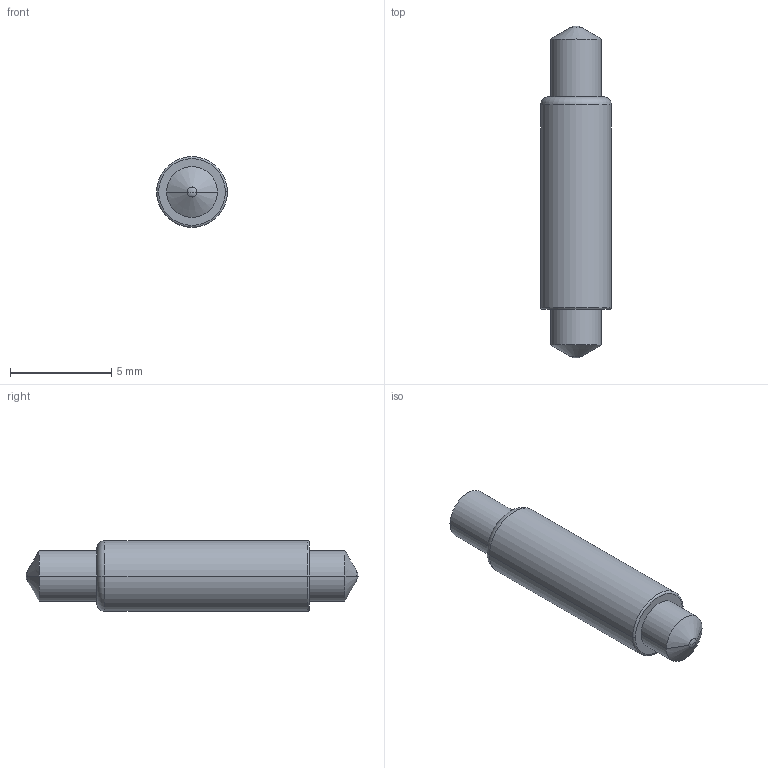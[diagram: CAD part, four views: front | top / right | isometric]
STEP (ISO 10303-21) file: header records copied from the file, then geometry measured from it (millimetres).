
FILE_DESCRIPTION((''),'2;1');
FILE_NAME('JB350B1640B-01','2020-10-27T',('lenovo'),(''),'PRO/ENGINEER BY PARAMETRIC TECHNOLOGY CORPORATION, 2008380','PRO/ENGINEER BY PARAMETRIC TECHNOLOGY CORPORATION, 2008380','');
FILE_SCHEMA(('CONFIG_CONTROL_DESIGN'));
Length unit declared in the file: millimetre
Products named in the file (1): JB350B1640B-01
Bounding box: 3.5 x 16.4 x 3.5 mm (x, y, z)
Volume: 125.6 mm3; surface area: 170 mm2
Topology: 1 solids, 1 shells, 20 faces, 42 edges, 22 vertices
Faces by surface type: cylinder 6, cone 4, sphere 4, torus 4, plane 2
Entity records: 548 total; most frequent: DIRECTION 106, CARTESIAN_POINT 80, ORIENTED_EDGE 76, AXIS2_PLACEMENT_3D 48, EDGE_CURVE 38, CIRCLE 28, VERTEX_POINT 22, EDGE_LOOP 22
